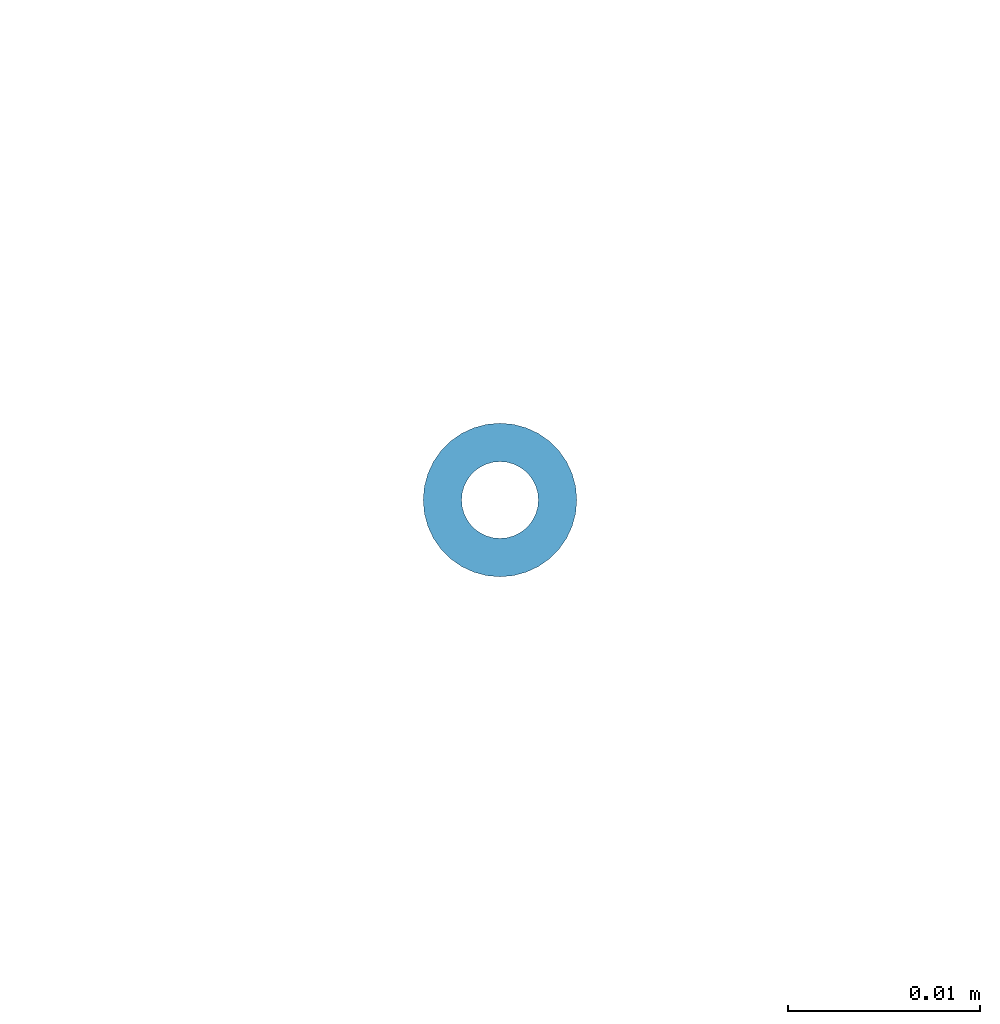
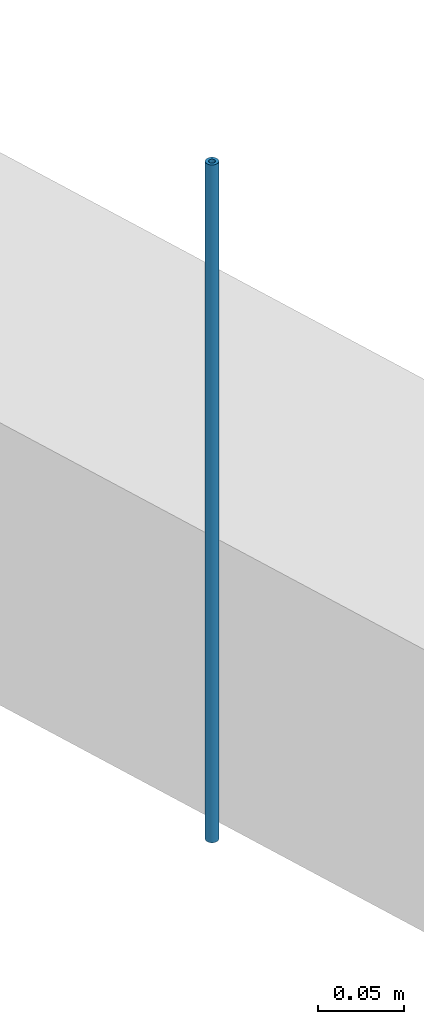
# One storey, part 23 of 23: 1 column.
"""IFC2X3 building model written with IfcOpenShell, lengths in millimetres."""

from ifc_helpers import new_model, entity, si_unit, converted_unit, derived_unit, direction, frame, origin_with_axes, place, context, subcontext, project, spatial, faceted_brep, material, type_object, element, save


model = new_model("IFC2X3")

# Units and contexts
model_context = context("Model", 3, precision=0.01, world=frame((0.0, 4.29681676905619e-09, 0.0)), true_north=direction((4.01073788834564e-13, 1.0)))
plan_context = context("Plan", 3, precision=0.01, world=frame((0.0, 4.29681676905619e-09, 0.0)), true_north=direction((4.01073788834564e-13, 1.0)))
body_context = subcontext(model_context, "Body", "Model", "MODEL_VIEW")
ifc_project = project(units=[converted_unit("PLANEANGLEUNIT", "DEGREE", entity("IfcPositiveLengthMeasure", 0.0174532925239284), si_unit("PLANEANGLEUNIT", "RADIAN"), dimensions=[0, 0, 0, 0, 0, 0, 0]), si_unit("AREAUNIT", "SQUARE_METRE"), si_unit("LENGTHUNIT", "METRE", prefix="MILLI"), si_unit("MASSUNIT", "GRAM", prefix="KILO"), si_unit("POWERUNIT", "WATT"), si_unit("PRESSUREUNIT", "PASCAL", prefix="KILO"), si_unit("FORCEUNIT", "NEWTON", prefix="KILO"), si_unit("ELECTRICVOLTAGEUNIT", "VOLT"), si_unit("ELECTRICCURRENTUNIT", "AMPERE"), si_unit("THERMODYNAMICTEMPERATUREUNIT", "DEGREE_CELSIUS"), si_unit("TIMEUNIT", "SECOND"), si_unit("VOLUMEUNIT", "CUBIC_METRE"), derived_unit("LINEARVELOCITYUNIT", [(si_unit("LENGTHUNIT", "METRE"), 1), (si_unit("TIMEUNIT", "SECOND"), -1)]), derived_unit("VOLUMETRICFLOWRATEUNIT", [(si_unit("VOLUMEUNIT", "CUBIC_METRE"), 1), (si_unit("TIMEUNIT", "SECOND"), -1)]), derived_unit("THERMALTRANSMITTANCEUNIT", [(si_unit("POWERUNIT", "WATT"), 1), (si_unit("THERMODYNAMICTEMPERATUREUNIT", "KELVIN"), -1), (si_unit("AREAUNIT", "SQUARE_METRE"), -1)]), derived_unit("SOUNDPRESSUREUNIT", [(si_unit("PRESSUREUNIT", "PASCAL"), 1)])], contexts=[model_context, plan_context])

# Site, building, storey
site_placement = place(None, origin_with_axes())
site = spatial("IfcSite", under=ifc_project, at=site_placement, Name="ENGM", CompositionType="ELEMENT")
building_placement = place(site_placement, origin_with_axes())
building = spatial("IfcBuilding", under=site, at=building_placement, Name="TI", CompositionType="ELEMENT")
storey_placement = place(building_placement, frame((0.0, 0.0, 213700.0), z_axis=(0.0, 0.0, 1.0), x_axis=(1.0, 0.0, 0.0)))
storey = spatial("IfcBuildingStorey", under=building, at=storey_placement, Name="Nivå G - 2,0m", CompositionType="ELEMENT", Elevation=213700.0)

# Column
ifc_material = material(Name="_NSW Stål")
column_type = type_object("IfcColumnType", Name="A241 - GRID-oppheng:A241 - GRID-oppheng - ø10 mm", PredefinedType="COLUMN", material=ifc_material)
column_placement = place(storey_placement, frame((599000.000000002, 577100.0, -213700.0), z_axis=(0.0, 0.0, 1.0), x_axis=(1.0, 0.0, 0.0)))
element("IfcColumn", 1, at=column_placement, inside=storey, type_object=column_type, Name="A241 - GRID-oppheng:A241 - GRID-oppheng - ø10 mm", ObjectType="A241 - GRID-oppheng:A241 - GRID-oppheng - ø10 mm", context=body_context, shape_type="Brep", body=[
    faceted_brep([(2.00000000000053, 2.95521980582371e-15, 214400.0), (1.96961550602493, -0.347296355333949, 214400.0), (1.96961550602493, -0.347296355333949, 213920.0), (2.00000000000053, 2.95521980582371e-15, 213920.0), (1.87938524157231, -0.684040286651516, 214400.0), (1.87938524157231, -0.684040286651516, 213920.0), (1.73205080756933, -1.00000000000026, 214400.0), (1.73205080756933, -1.00000000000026, 213920.0), (1.53208888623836, -1.28557521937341, 214400.0), (1.53208888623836, -1.28557521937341, 213920.0), (1.28557521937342, -1.53208888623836, 214400.0), (1.28557521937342, -1.53208888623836, 213920.0), (1.00000000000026, -1.73205080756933, 214400.0), (1.00000000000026, -1.73205080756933, 213920.0), (0.684040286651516, -1.87938524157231, 214400.0), (0.684040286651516, -1.87938524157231, 213920.0), (0.347296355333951, -1.96961550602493, 214400.0), (0.347296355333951, -1.96961550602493, 213920.0), (-2.38954857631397e-16, -2.00000000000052, 214400.0), (-2.38954857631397e-16, -2.00000000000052, 213920.0), (-0.347296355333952, -1.96961550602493, 214400.0), (-0.347296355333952, -1.96961550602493, 213920.0), (-0.684040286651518, -1.87938524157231, 214400.0), (-0.684040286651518, -1.87938524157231, 213920.0), (-1.00000000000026, -1.73205080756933, 214400.0), (-1.00000000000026, -1.73205080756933, 213920.0), (-1.28557521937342, -1.53208888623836, 214400.0), (-1.28557521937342, -1.53208888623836, 213920.0), (-1.53208888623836, -1.28557521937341, 214400.0), (-1.53208888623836, -1.28557521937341, 213920.0), (-1.73205080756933, -1.00000000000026, 214400.0), (-1.73205080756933, -1.00000000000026, 213920.0), (-1.87938524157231, -0.684040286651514, 214400.0), (-1.87938524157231, -0.684040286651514, 213920.0), (-1.96961550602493, -0.347296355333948, 214400.0), (-1.96961550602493, -0.347296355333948, 213920.0), (-2.00000000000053, 3.20014916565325e-15, 214400.0), (-2.00000000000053, 3.20014916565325e-15, 213920.0), (-1.96961550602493, 0.347296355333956, 214400.0), (-1.96961550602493, 0.347296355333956, 213920.0), (-1.87938524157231, 0.68404028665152, 214400.0), (-1.87938524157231, 0.68404028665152, 213920.0), (-1.73205080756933, 1.00000000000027, 214400.0), (-1.73205080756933, 1.00000000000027, 213920.0), (-1.53208888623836, 1.28557521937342, 214400.0), (-1.53208888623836, 1.28557521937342, 213920.0), (-1.28557521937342, 1.53208888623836, 214400.0), (-1.28557521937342, 1.53208888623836, 213920.0), (-1.00000000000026, 1.73205080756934, 214400.0), (-1.00000000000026, 1.73205080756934, 213920.0), (-0.684040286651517, 1.87938524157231, 214400.0), (-0.684040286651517, 1.87938524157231, 213920.0), (-0.347296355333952, 1.96961550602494, 214400.0), (-0.347296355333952, 1.96961550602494, 213920.0), (2.50903862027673e-16, 2.00000000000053, 214400.0), (2.50903862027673e-16, 2.00000000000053, 213920.0), (0.347296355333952, 1.96961550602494, 214400.0), (0.347296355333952, 1.96961550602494, 213920.0), (0.684040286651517, 1.87938524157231, 214400.0), (0.684040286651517, 1.87938524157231, 213920.0), (1.00000000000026, 1.73205080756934, 214400.0), (1.00000000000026, 1.73205080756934, 213920.0), (1.28557521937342, 1.53208888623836, 214400.0), (1.28557521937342, 1.53208888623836, 213920.0), (1.53208888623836, 1.28557521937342, 214400.0), (1.53208888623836, 1.28557521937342, 213920.0), (1.73205080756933, 1.00000000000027, 214400.0), (1.73205080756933, 1.00000000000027, 213920.0), (1.87938524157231, 0.68404028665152, 214400.0), (1.87938524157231, 0.68404028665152, 213920.0), (1.96961550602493, 0.347296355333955, 214400.0), (1.96961550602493, 0.347296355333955, 213920.0), (3.93923101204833, -0.694592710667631, 214400.0), (3.99999999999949, 2.95521980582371e-15, 214400.0), (3.99999999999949, 2.95521980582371e-15, 213920.0), (3.93923101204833, -0.694592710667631, 213920.0), (3.93923101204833, 0.694592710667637, 214400.0), (3.93923101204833, 0.694592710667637, 213920.0), (3.75877048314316, 1.3680805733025, 214400.0), (3.75877048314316, 1.3680805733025, 213920.0), (3.46410161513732, 1.99999999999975, 214400.0), (3.46410161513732, 1.99999999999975, 213920.0), (3.06417777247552, 2.57115043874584, 214400.0), (3.06417777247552, 2.57115043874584, 213920.0), (2.57115043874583, 3.06417777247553, 214400.0), (2.57115043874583, 3.06417777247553, 213920.0), (1.99999999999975, 3.46410161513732, 214400.0), (1.99999999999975, 3.46410161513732, 213920.0), (1.3680805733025, 3.75877048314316, 214400.0), (1.3680805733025, 3.75877048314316, 213920.0), (0.694592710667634, 3.93923101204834, 214400.0), (0.694592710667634, 3.93923101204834, 213920.0), (3.73368541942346e-16, 3.9999999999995, 214400.0), (3.73368541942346e-16, 3.9999999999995, 213920.0), (-0.694592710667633, 3.93923101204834, 214400.0), (-0.694592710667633, 3.93923101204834, 213920.0), (-1.3680805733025, 3.75877048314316, 214400.0), (-1.3680805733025, 3.75877048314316, 213920.0), (-1.99999999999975, 3.46410161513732, 214400.0), (-1.99999999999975, 3.46410161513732, 213920.0), (-2.57115043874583, 3.06417777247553, 214400.0), (-2.57115043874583, 3.06417777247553, 213920.0), (-3.06417777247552, 2.57115043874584, 214400.0), (-3.06417777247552, 2.57115043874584, 213920.0), (-3.46410161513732, 1.99999999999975, 214400.0), (-3.46410161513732, 1.99999999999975, 213920.0), (-3.75877048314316, 1.36808057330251, 214400.0), (-3.75877048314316, 1.36808057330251, 213920.0), (-3.93923101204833, 0.694592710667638, 214400.0), (-3.93923101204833, 0.694592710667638, 213920.0), (-3.99999999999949, 3.44507852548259e-15, 214400.0), (-3.99999999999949, 3.44507852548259e-15, 213920.0), (-3.93923101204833, -0.694592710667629, 214400.0), (-3.93923101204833, -0.694592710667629, 213920.0), (-3.75877048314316, -1.3680805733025, 214400.0), (-3.75877048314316, -1.3680805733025, 213920.0), (-3.46410161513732, -1.99999999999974, 214400.0), (-3.46410161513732, -1.99999999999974, 213920.0), (-3.06417777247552, -2.57115043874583, 214400.0), (-3.06417777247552, -2.57115043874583, 213920.0), (-2.57115043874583, -3.06417777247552, 214400.0), (-2.57115043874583, -3.06417777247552, 213920.0), (-1.99999999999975, -3.46410161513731, 214400.0), (-1.99999999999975, -3.46410161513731, 213920.0), (-1.3680805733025, -3.75877048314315, 214400.0), (-1.3680805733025, -3.75877048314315, 213920.0), (-0.694592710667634, -3.93923101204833, 214400.0), (-0.694592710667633, -3.93923101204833, 213920.0), (-6.06348897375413e-16, -3.99999999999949, 214400.0), (-6.06348897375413e-16, -3.99999999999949, 213920.0), (0.694592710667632, -3.93923101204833, 214400.0), (0.694592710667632, -3.93923101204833, 213920.0), (1.3680805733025, -3.75877048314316, 214400.0), (1.3680805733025, -3.75877048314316, 213920.0), (1.99999999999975, -3.46410161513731, 214400.0), (1.99999999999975, -3.46410161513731, 213920.0), (2.57115043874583, -3.06417777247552, 214400.0), (2.57115043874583, -3.06417777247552, 213920.0), (3.06417777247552, -2.57115043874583, 214400.0), (3.06417777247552, -2.57115043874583, 213920.0), (3.46410161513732, -1.99999999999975, 214400.0), (3.46410161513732, -1.99999999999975, 213920.0), (3.75877048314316, -1.3680805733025, 214400.0), (3.75877048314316, -1.3680805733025, 213920.0)], [[[0, 1, 2, 3]], [[1, 4, 5, 2]], [[4, 6, 7, 5]], [[6, 8, 9, 7]], [[8, 10, 11, 9]], [[10, 12, 13, 11]], [[12, 14, 15, 13]], [[14, 16, 17, 15]], [[16, 18, 19, 17]], [[18, 20, 21, 19]], [[20, 22, 23, 21]], [[22, 24, 25, 23]], [[24, 26, 27, 25]], [[26, 28, 29, 27]], [[28, 30, 31, 29]], [[30, 32, 33, 31]], [[32, 34, 35, 33]], [[34, 36, 37, 35]], [[36, 38, 39, 37]], [[38, 40, 41, 39]], [[40, 42, 43, 41]], [[42, 44, 45, 43]], [[44, 46, 47, 45]], [[46, 48, 49, 47]], [[48, 50, 51, 49]], [[50, 52, 53, 51]], [[52, 54, 55, 53]], [[54, 56, 57, 55]], [[56, 58, 59, 57]], [[58, 60, 61, 59]], [[60, 62, 63, 61]], [[62, 64, 65, 63]], [[64, 66, 67, 65]], [[66, 68, 69, 67]], [[68, 70, 71, 69]], [[70, 0, 3, 71]], [[72, 73, 74, 75]], [[73, 76, 77, 74]], [[76, 78, 79, 77]], [[78, 80, 81, 79]], [[80, 82, 83, 81]], [[82, 84, 85, 83]], [[84, 86, 87, 85]], [[86, 88, 89, 87]], [[88, 90, 91, 89]], [[90, 92, 93, 91]], [[92, 94, 95, 93]], [[94, 96, 97, 95]], [[96, 98, 99, 97]], [[98, 100, 101, 99]], [[100, 102, 103, 101]], [[102, 104, 105, 103]], [[104, 106, 107, 105]], [[106, 108, 109, 107]], [[108, 110, 111, 109]], [[110, 112, 113, 111]], [[112, 114, 115, 113]], [[114, 116, 117, 115]], [[116, 118, 119, 117]], [[118, 120, 121, 119]], [[120, 122, 123, 121]], [[122, 124, 125, 123]], [[124, 126, 127, 125]], [[126, 128, 129, 127]], [[128, 130, 131, 129]], [[130, 132, 133, 131]], [[132, 134, 135, 133]], [[134, 136, 137, 135]], [[136, 138, 139, 137]], [[138, 140, 141, 139]], [[140, 142, 143, 141]], [[142, 72, 75, 143]], [[75, 74, 77, 79, 81, 83, 85, 87, 89, 91, 93, 95, 97, 99, 101, 103, 105, 107, 109, 111, 113, 115, 117, 119, 121, 123, 125, 127, 129, 131, 133, 135, 137, 139, 141, 143], [3, 2, 5, 7, 9, 11, 13, 15, 17, 19, 21, 23, 25, 27, 29, 31, 33, 35, 37, 39, 41, 43, 45, 47, 49, 51, 53, 55, 57, 59, 61, 63, 65, 67, 69, 71]], [[142, 140, 138, 136, 134, 132, 130, 128, 126, 124, 122, 120, 118, 116, 114, 112, 110, 108, 106, 104, 102, 100, 98, 96, 94, 92, 90, 88, 86, 84, 82, 80, 78, 76, 73, 72], [70, 68, 66, 64, 62, 60, 58, 56, 54, 52, 50, 48, 46, 44, 42, 40, 38, 36, 34, 32, 30, 28, 26, 24, 22, 20, 18, 16, 14, 12, 10, 8, 6, 4, 1, 0]]], orient=[[False], [False], [False], [False], [False], [False], [False], [False], [False], [False], [False], [False], [False], [False], [False], [False], [False], [False], [False], [False], [False], [False], [False], [False], [False], [False], [False], [False], [False], [False], [False], [False], [False], [False], [False], [False], [False], [False], [False], [False], [False], [False], [False], [False], [False], [False], [False], [False], [False], [False], [False], [False], [False], [False], [False], [False], [False], [False], [False], [False], [False], [False], [False], [False], [False], [False], [False], [False], [False], [False], [False], [False], [False, False], [False, False]]),
])

save(model, "model.ifc")
